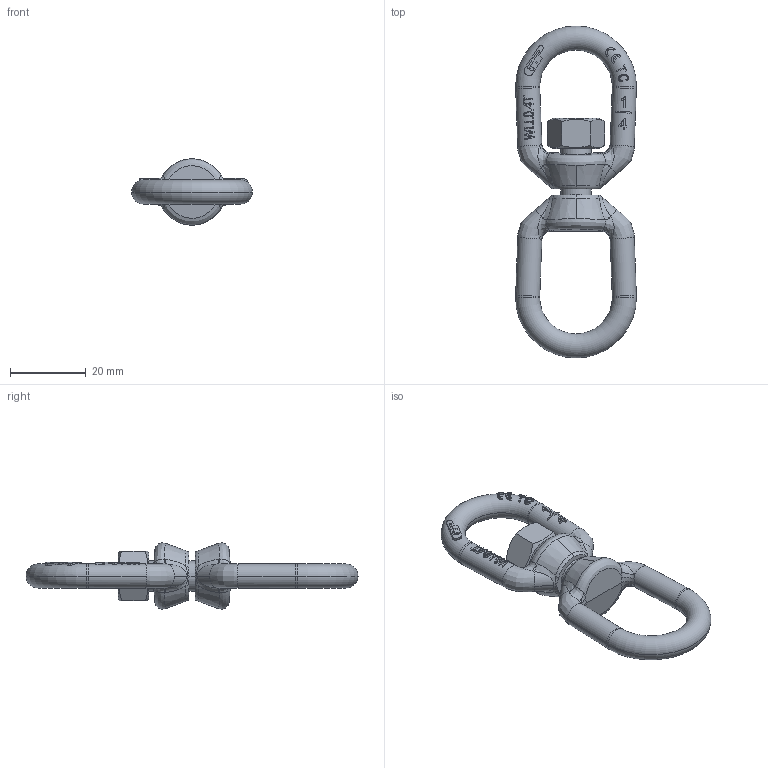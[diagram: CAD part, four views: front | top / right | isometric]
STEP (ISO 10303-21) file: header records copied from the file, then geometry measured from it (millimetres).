
FILE_DESCRIPTION(('STEP AP203'),'1');
FILE_NAME('wtgpoo06.stp','2023-09-13T10:37:08',('TraceParts'),('TraceParts S.A.'),'Spatial InterOp 3D',' ',' ');
FILE_SCHEMA(('CONFIG_CONTROL_DESIGN'));
Length unit declared in the file: millimetre
Products named in the file (1): 1
Bounding box: 31.8 x 87.4 x 17.49 mm (x, y, z)
Volume: 10286.5 mm3; surface area: 6272 mm2
Topology: 3 solids, 3 shells, 309 faces, 795 edges, 507 vertices
Faces by surface type: plane 128, bspline 71, cylinder 66, torus 26, cone 18
Entity records: 20488 total; most frequent: CARTESIAN_POINT 14167, ORIENTED_EDGE 1590, DIRECTION 916, EDGE_CURVE 795, VERTEX_POINT 507, AXIS2_PLACEMENT_3D 354, EDGE_LOOP 332, B_SPLINE_CURVE_WITH_KNOTS 328
